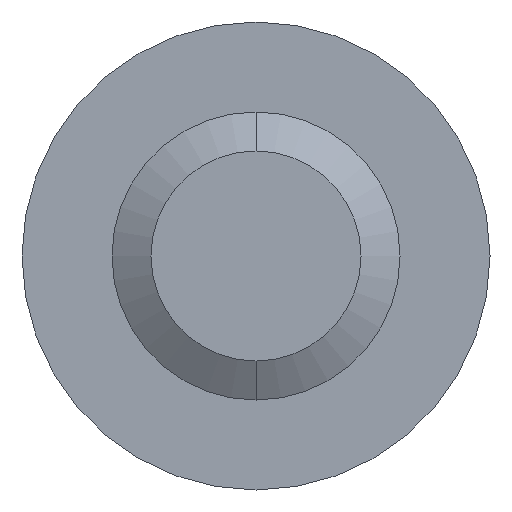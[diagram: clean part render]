
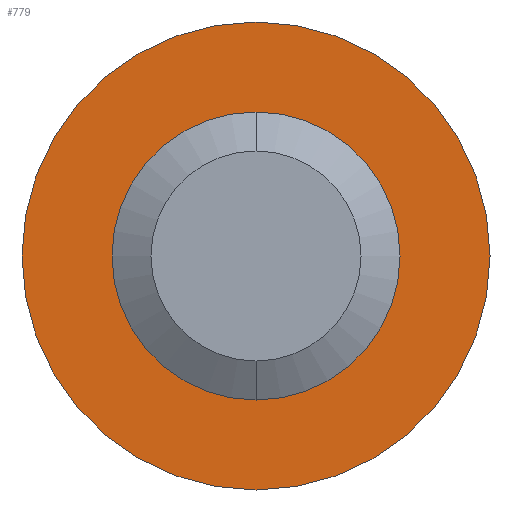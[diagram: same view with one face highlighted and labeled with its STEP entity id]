
A CAD part, front view. The second image highlights one B-rep face of the part: STEP entity #779.
In plain terms, the highlighted planar face has unit normal (0, -1, 0).
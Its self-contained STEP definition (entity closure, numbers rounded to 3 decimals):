
#24 = ORIENTED_EDGE ( 'NONE', *, *, #708, .T. ) ;
#60 = CARTESIAN_POINT ( 'NONE',  ( 0., 10., 4. ) ) ;
#62 = DIRECTION ( 'NONE',  ( 0., 1., 0. ) ) ;
#110 = VERTEX_POINT ( 'NONE', #524 ) ;
#160 = CIRCLE ( 'NONE', #592, 4. ) ;
#262 = AXIS2_PLACEMENT_3D ( 'NONE', #1444, #838, #1196 ) ;
#265 = AXIS2_PLACEMENT_3D ( 'NONE', #533, #1135, #1273 ) ;
#324 = EDGE_CURVE ( 'NONE', #959, #1264, #1204, .T. ) ;
#354 = DIRECTION ( 'NONE',  ( 0., 1., 0. ) ) ;
#383 = EDGE_LOOP ( 'NONE', ( #24, #1215 ) ) ;
#419 = DIRECTION ( 'NONE',  ( 0., 1., 0. ) ) ;
#463 = CIRCLE ( 'NONE', #1465, 6.5 ) ;
#477 = VERTEX_POINT ( 'NONE', #595 ) ;
#524 = CARTESIAN_POINT ( 'NONE',  ( 0., 10., -6.5 ) ) ;
#533 = CARTESIAN_POINT ( 'NONE',  ( 0., 10., 0. ) ) ;
#550 = FACE_BOUND ( 'NONE', #383, .T. ) ;
#574 = FACE_OUTER_BOUND ( 'NONE', #1575, .T. ) ;
#592 = AXIS2_PLACEMENT_3D ( 'NONE', #1168, #354, #1331 ) ;
#595 = CARTESIAN_POINT ( 'NONE',  ( 0., 10., 6.5 ) ) ;
#665 = PLANE ( 'NONE',  #1563 ) ;
#708 = EDGE_CURVE ( 'NONE', #1264, #959, #160, .T. ) ;
#721 = CARTESIAN_POINT ( 'NONE',  ( 0., 10., 0. ) ) ;
#730 = EDGE_CURVE ( 'NONE', #477, #110, #463, .T. ) ;
#779 = ADVANCED_FACE ( 'NONE', ( #574, #550 ), #665, .F. ) ;
#787 = CARTESIAN_POINT ( 'NONE',  ( 0., 10., 0. ) ) ;
#800 = ORIENTED_EDGE ( 'NONE', *, *, #1020, .F. ) ;
#838 = DIRECTION ( 'NONE',  ( 0., 1., 0. ) ) ;
#882 = CARTESIAN_POINT ( 'NONE',  ( 0., 10., -4. ) ) ;
#928 = CIRCLE ( 'NONE', #265, 6.5 ) ;
#959 = VERTEX_POINT ( 'NONE', #60 ) ;
#1020 = EDGE_CURVE ( 'NONE', #110, #477, #928, .T. ) ;
#1070 = DIRECTION ( 'NONE',  ( 0., 0., 1. ) ) ;
#1135 = DIRECTION ( 'NONE',  ( 0., 1., 0. ) ) ;
#1168 = CARTESIAN_POINT ( 'NONE',  ( 0., 10., 0. ) ) ;
#1196 = DIRECTION ( 'NONE',  ( 0., 0., 1. ) ) ;
#1204 = CIRCLE ( 'NONE', #262, 4. ) ;
#1215 = ORIENTED_EDGE ( 'NONE', *, *, #324, .T. ) ;
#1232 = ORIENTED_EDGE ( 'NONE', *, *, #730, .F. ) ;
#1264 = VERTEX_POINT ( 'NONE', #882 ) ;
#1273 = DIRECTION ( 'NONE',  ( 0., 0., 1. ) ) ;
#1295 = DIRECTION ( 'NONE',  ( 0., 0., 1. ) ) ;
#1331 = DIRECTION ( 'NONE',  ( 0., 0., 1. ) ) ;
#1444 = CARTESIAN_POINT ( 'NONE',  ( 0., 10., 0. ) ) ;
#1465 = AXIS2_PLACEMENT_3D ( 'NONE', #787, #419, #1295 ) ;
#1563 = AXIS2_PLACEMENT_3D ( 'NONE', #721, #62, #1070 ) ;
#1575 = EDGE_LOOP ( 'NONE', ( #800, #1232 ) ) ;
